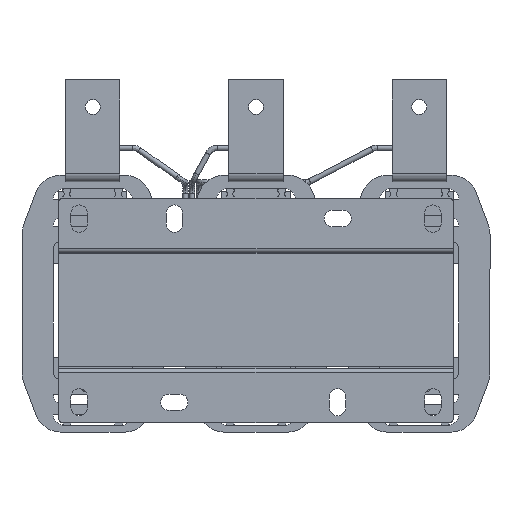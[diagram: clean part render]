
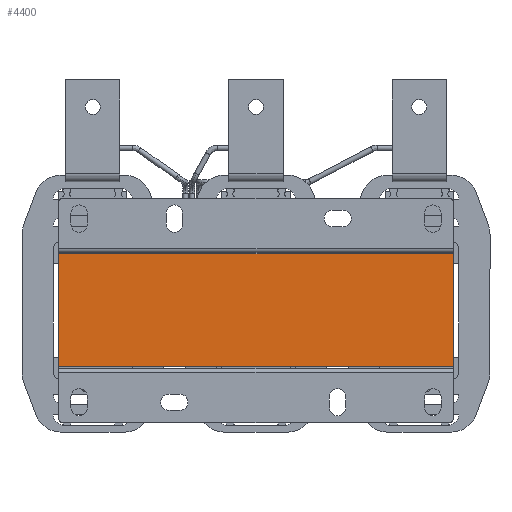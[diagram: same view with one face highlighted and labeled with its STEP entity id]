
A CAD part, front view. The second image highlights one B-rep face of the part: STEP entity #4400.
In plain terms, the highlighted planar face has unit normal (0, -1, 0).
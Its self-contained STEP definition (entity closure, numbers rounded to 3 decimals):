
#3301 = VECTOR ( 'NONE', #52716, 1000. ) ;
#4400 = ADVANCED_FACE ( 'NONE', ( #18754 ), #31657, .F. ) ;
#5540 = CARTESIAN_POINT ( 'NONE',  ( -145., -140., 83. ) ) ;
#6560 = VERTEX_POINT ( 'NONE', #21822 ) ;
#10086 = LINE ( 'NONE', #5540, #19596 ) ;
#10190 = DIRECTION ( 'NONE',  ( 0., 1., 0. ) ) ;
#11206 = CARTESIAN_POINT ( 'NONE',  ( 145., -140., 83. ) ) ;
#12168 = CARTESIAN_POINT ( 'NONE',  ( 145., -140., 83. ) ) ;
#12484 = EDGE_CURVE ( 'NONE', #6560, #23832, #10086, .T. ) ;
#14203 = VECTOR ( 'NONE', #52045, 1000. ) ;
#14935 = ORIENTED_EDGE ( 'NONE', *, *, #12484, .F. ) ;
#15485 = VECTOR ( 'NONE', #48852, 1000. ) ;
#16789 = EDGE_CURVE ( 'NONE', #29817, #6560, #40016, .T. ) ;
#17757 = VERTEX_POINT ( 'NONE', #12168 ) ;
#18754 = FACE_OUTER_BOUND ( 'NONE', #37971, .T. ) ;
#19596 = VECTOR ( 'NONE', #29441, 1000. ) ;
#21822 = CARTESIAN_POINT ( 'NONE',  ( -145., -140., 0. ) ) ;
#22352 = ORIENTED_EDGE ( 'NONE', *, *, #48020, .F. ) ;
#23529 = LINE ( 'NONE', #35596, #3301 ) ;
#23636 = LINE ( 'NONE', #11206, #14203 ) ;
#23832 = VERTEX_POINT ( 'NONE', #51298 ) ;
#24491 = ORIENTED_EDGE ( 'NONE', *, *, #44571, .F. ) ;
#29441 = DIRECTION ( 'NONE',  ( 0., 0., 1. ) ) ;
#29817 = VERTEX_POINT ( 'NONE', #41185 ) ;
#30105 = AXIS2_PLACEMENT_3D ( 'NONE', #51201, #10190, #43463 ) ;
#31657 = PLANE ( 'NONE',  #30105 ) ;
#35596 = CARTESIAN_POINT ( 'NONE',  ( 0., -140., 83. ) ) ;
#37971 = EDGE_LOOP ( 'NONE', ( #24491, #22352, #14935, #49603 ) ) ;
#40016 = LINE ( 'NONE', #52071, #15485 ) ;
#41185 = CARTESIAN_POINT ( 'NONE',  ( 145., -140., 0. ) ) ;
#43463 = DIRECTION ( 'NONE',  ( -1., 0., 0. ) ) ;
#44571 = EDGE_CURVE ( 'NONE', #17757, #29817, #23636, .T. ) ;
#48020 = EDGE_CURVE ( 'NONE', #23832, #17757, #23529, .T. ) ;
#48852 = DIRECTION ( 'NONE',  ( -1., 0., 0. ) ) ;
#49603 = ORIENTED_EDGE ( 'NONE', *, *, #16789, .F. ) ;
#51201 = CARTESIAN_POINT ( 'NONE',  ( -145., -140., 83. ) ) ;
#51298 = CARTESIAN_POINT ( 'NONE',  ( -145., -140., 83. ) ) ;
#52045 = DIRECTION ( 'NONE',  ( 0., 0., -1. ) ) ;
#52071 = CARTESIAN_POINT ( 'NONE',  ( -145., -140., 0. ) ) ;
#52716 = DIRECTION ( 'NONE',  ( 1., 0., 0. ) ) ;
